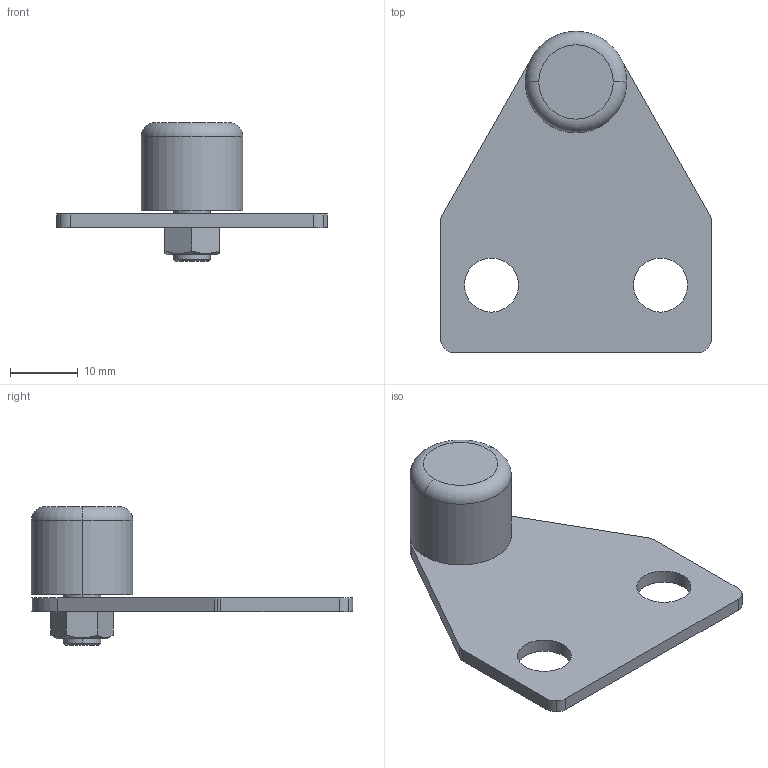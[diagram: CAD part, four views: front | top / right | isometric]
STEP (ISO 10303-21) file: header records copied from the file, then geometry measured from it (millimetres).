
FILE_DESCRIPTION (( 'STEP AP203' ), '1' );
FILE_NAME ('MG0640-6.STEP', '2024-02-19T12:44:35', ( '' ), ( '' ), 'SwSTEP 2.0', 'SolidWorks 2022', '' );
FILE_SCHEMA (( 'CONFIG_CONTROL_DESIGN' ));
Length unit declared in the file: millimetre
Products named in the file (1): MG0640-6
Bounding box: 40 x 47.5 x 20.5 mm (x, y, z)
Volume: 5237.1 mm3; surface area: 4125 mm2
Topology: 1 solids, 1 shells, 42 faces, 104 edges, 68 vertices
Faces by surface type: cylinder 19, plane 17, cone 4, torus 2
Entity records: 1339 total; most frequent: CARTESIAN_POINT 231, DIRECTION 228, ORIENTED_EDGE 208, EDGE_CURVE 104, AXIS2_PLACEMENT_3D 89, VERTEX_POINT 68, EDGE_LOOP 50, VECTOR 50
